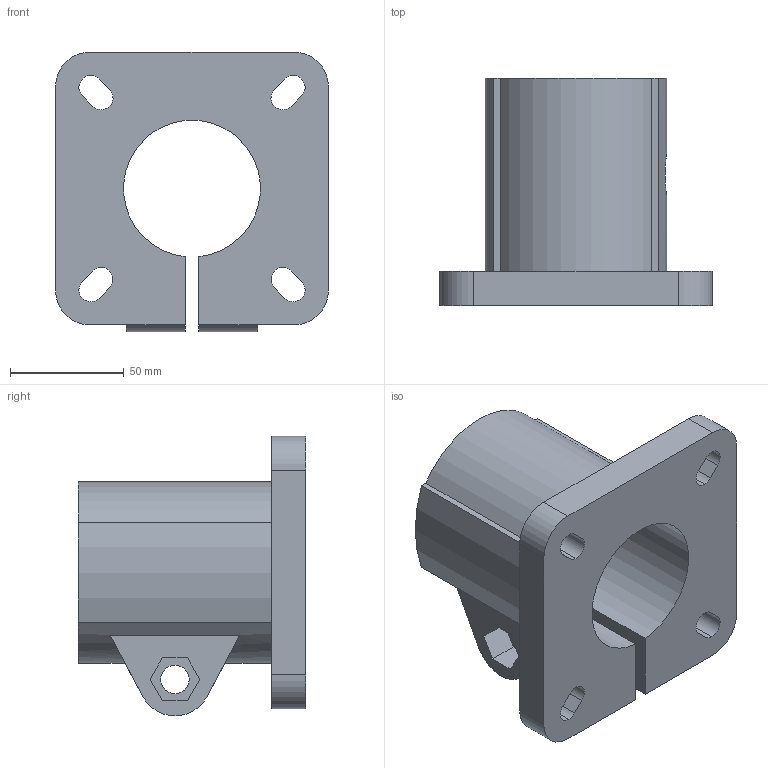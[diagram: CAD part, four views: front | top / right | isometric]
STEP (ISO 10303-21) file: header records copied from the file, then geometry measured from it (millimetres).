
FILE_DESCRIPTION (( 'STEP AP203' ), '1' );
FILE_NAME ('Base clamp 041J004324.STEP', '2009-10-15T06:18:39', ( 'HP' ), ( '' ), 'SwSTEP 2.0', 'SolidWorks 2008', '' );
FILE_SCHEMA (( 'CONFIG_CONTROL_DESIGN' ));
Length unit declared in the file: millimetre
Products named in the file (1): Base clamp 041J004324
Bounding box: 120 x 100 x 123 mm (x, y, z)
Volume: 379406.3 mm3; surface area: 80499.8 mm2
Topology: 1 solids, 1 shells, 75 faces, 210 edges, 140 vertices
Faces by surface type: plane 43, cylinder 32
Entity records: 2619 total; most frequent: CARTESIAN_POINT 534, ORIENTED_EDGE 420, DIRECTION 418, EDGE_CURVE 210, LINE 142, VECTOR 142, VERTEX_POINT 140, AXIS2_PLACEMENT_3D 138
